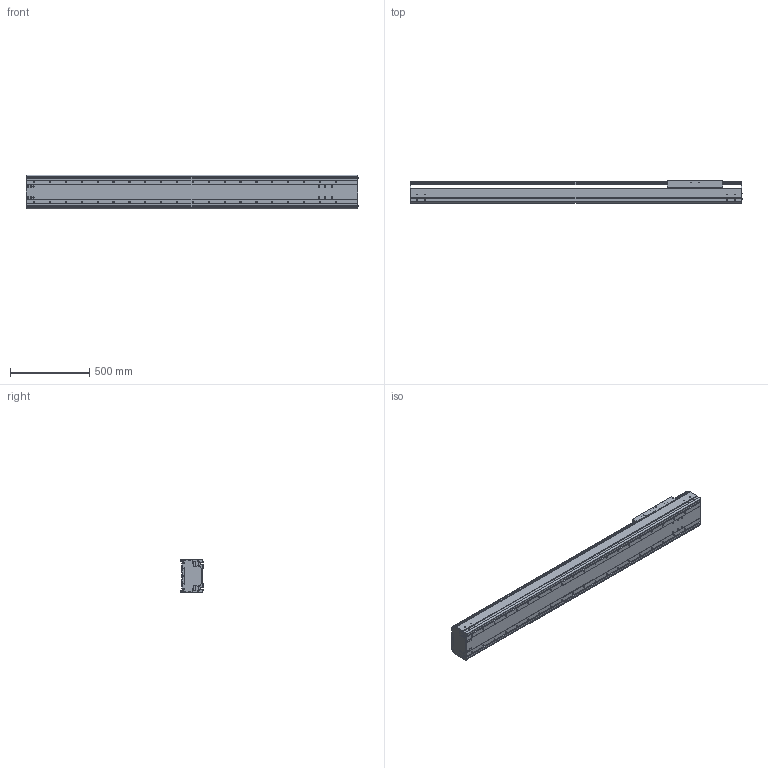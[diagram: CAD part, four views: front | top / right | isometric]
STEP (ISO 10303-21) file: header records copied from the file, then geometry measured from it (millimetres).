
FILE_DESCRIPTION((''),'2;1');
FILE_NAME('BE60J-ST-L_N-F5_IGS_PRT','2017-06-18T',(' '),(''),'PRO/ENGINEER BY PARAMETRIC TECHNOLOGY CORPORATION, 2015030','PRO/ENGINEER BY PARAMETRIC TECHNOLOGY CORPORATION, 2015030','');
FILE_SCHEMA(('CONFIG_CONTROL_DESIGN'));
Length unit declared in the file: millimetre
Products named in the file (1): BE60J-ST-L_N-F5_IGS_PRT
Bounding box: 2092.4 x 140 x 214 mm (x, y, z)
Volume: 16138028.7 mm3; surface area: 4383865.5 mm2
Topology: 2 solids, 138 shells, 1607 faces, 4552 edges, 3050 vertices
Faces by surface type: cylinder 864, plane 635, cone 60, sphere 24, torus 24
Entity records: 54634 total; most frequent: CARTESIAN_POINT 12451, DIRECTION 8764, ORIENTED_EDGE 8456, EDGE_CURVE 4496, AXIS2_PLACEMENT_3D 3296, VERTEX_POINT 3050, VECTOR 2172, LINE 2172
